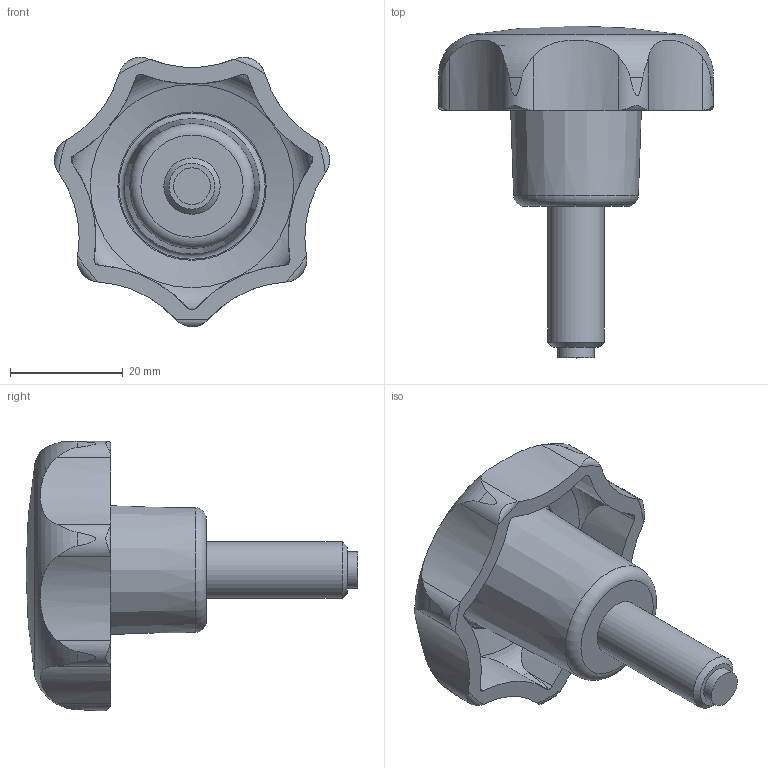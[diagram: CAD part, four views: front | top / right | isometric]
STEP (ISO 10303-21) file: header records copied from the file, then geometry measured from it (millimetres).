
FILE_DESCRIPTION( ( 'STEP AP203' ), '1' );
FILE_NAME( 'C:/Temp/Ganter_Step_05_03_2020/data/2_2/gn6336_10/Star knob GN 6336.10-50-M10-25-KU.stp', '2020-03-05T12:04:27', ( 'License CC BY-ND 4.0' ), ( 'CADENAS' ), ' ', 'PARTsolutions', ' ' );
FILE_SCHEMA( ( 'CONFIG_CONTROL_DESIGN' ) );
Length unit declared in the file: millimetre
Products named in the file (1): _Star knob GN 6336.10-50-M10-25-KU
Bounding box: 48.81 x 58.9 x 47.78 mm (x, y, z)
Volume: 22595.6 mm3; surface area: 9084.2 mm2
Topology: 1 solids, 1 shells, 64 faces, 189 edges, 129 vertices
Faces by surface type: cylinder 30, cone 17, torus 12, plane 4, sphere 1
Full cylindrical faces by diameter (mm): 6.5 x1, 10 x1
Entity records: 3108 total; most frequent: CARTESIAN_POINT 1546, ORIENTED_EDGE 346, DIRECTION 266, EDGE_CURVE 173, VERTEX_POINT 125, AXIS2_PLACEMENT_3D 119, B_SPLINE_CURVE_WITH_KNOTS 91, EDGE_LOOP 77
